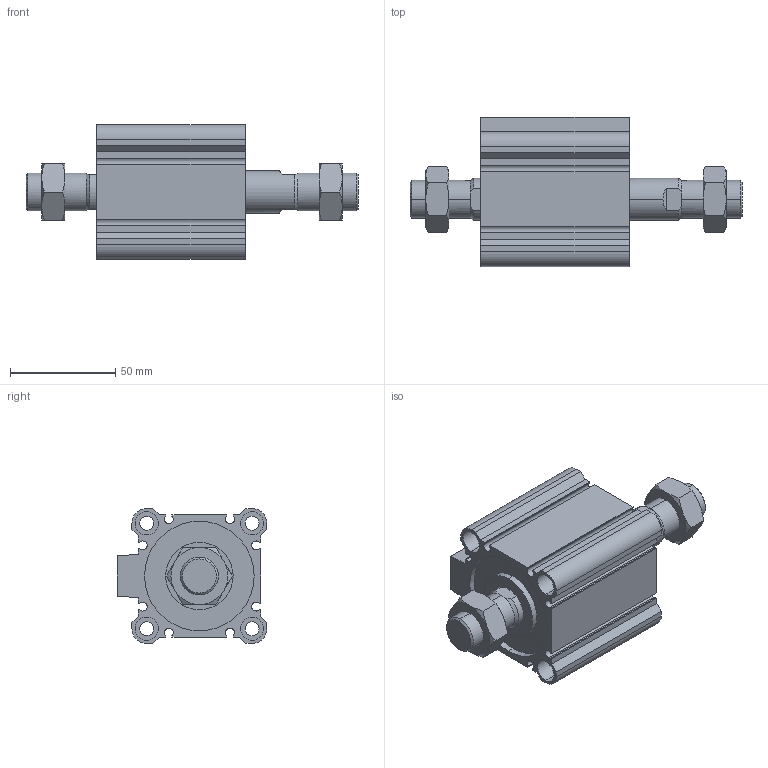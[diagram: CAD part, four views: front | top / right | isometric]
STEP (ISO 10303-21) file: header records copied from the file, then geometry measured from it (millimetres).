
FILE_DESCRIPTION (( 'STEP AP203' ), '1' );
FILE_NAME ('CCMB50-20M-P.STEP', '2020-08-10T11:42:40', ( '' ), ( '' ), 'SwSTEP 2.0', 'SolidWorks 2019', '' );
FILE_SCHEMA (( 'CONFIG_CONTROL_DESIGN' ));
Length unit declared in the file: millimetre
Products named in the file (1): CCMB50-20M-P
Bounding box: 157.5 x 71 x 64 mm (x, y, z)
Volume: 232739.5 mm3; surface area: 72518.5 mm2
Topology: 4 solids, 4 shells, 220 faces, 534 edges, 340 vertices
Faces by surface type: plane 98, cylinder 78, cone 44
Entity records: 7173 total; most frequent: CARTESIAN_POINT 1867, DIRECTION 1116, ORIENTED_EDGE 1068, EDGE_CURVE 534, AXIS2_PLACEMENT_3D 425, VERTEX_POINT 340, VECTOR 266, LINE 266
